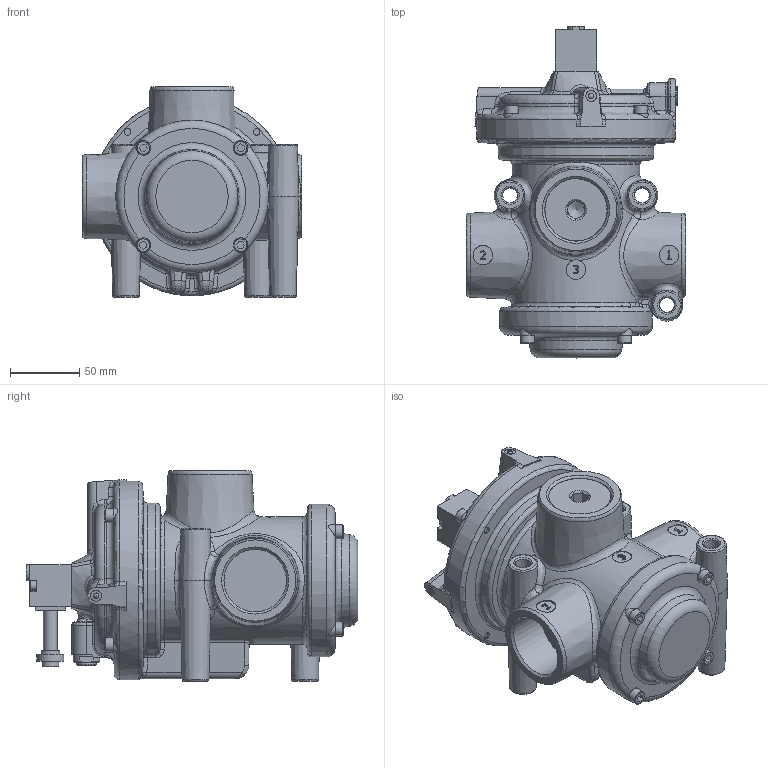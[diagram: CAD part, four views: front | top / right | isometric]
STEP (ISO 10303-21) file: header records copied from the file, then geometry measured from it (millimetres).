
FILE_DESCRIPTION(/* description */ ('EV.OTT. x VUOTO 2/2 NC SOL-MOLLA AUTOALIM. CON M3R'),/* implementation_level */ '2;1');
FILE_NAME(/* name */ 'C:\PNX_VAULTFOLDER\Area Tecnica\Disegni\VARIE-3D\Componenti\1900 (vuoto)\N776-V_22_0_1AC_M3R.stp',/* time_stamp */ '2018-06-18T15:51:19+02:00',/* author */ ('maniean1'),/* organization */ ('Pneumax S.p.A.'),/* preprocessor_version */ 'ST-DEVELOPER v16.5',/* originating_system */ 'Autodesk Inventor 2017',/* authorisation */ '');
FILE_SCHEMA (('AUTOMOTIVE_DESIGN { 1 0 10303 214 3 1 1 }'));
Length unit declared in the file: millimetre
Products named in the file (1): N776/V.22.0.1AC.M3R
Bounding box: 158 x 239 x 151.5 mm (x, y, z)
Volume: 1972384.8 mm3; surface area: 179725.5 mm2
Topology: 1 solids, 25 shells, 843 faces, 2068 edges, 1298 vertices
Faces by surface type: plane 311, bspline 193, cylinder 163, cone 95, torus 63, sphere 18
Full cylindrical faces by diameter (mm): 2.2 x2, 3.242 x2, 4 x15, 4.917 x8, 6 x9, 7 x5, 7.3 x1, 8 x2, 8.566 x1, 8.68 x1, 10 x11, 12 x2, 13.3 x1, 14 x5, 18 x1, 18.622 x1, 19 x1, 19.5 x1, 37.8 x1, 40 x1, 44 x1, 45 x4, 110 x1, 143 x1
Entity records: 32160 total; most frequent: CARTESIAN_POINT 13860, ORIENTED_EDGE 3536, DIRECTION 3344, EDGE_CURVE 1768, AXIS2_PLACEMENT_3D 1383, VERTEX_POINT 1183, EDGE_LOOP 1077, FACE_OUTER_BOUND 841
